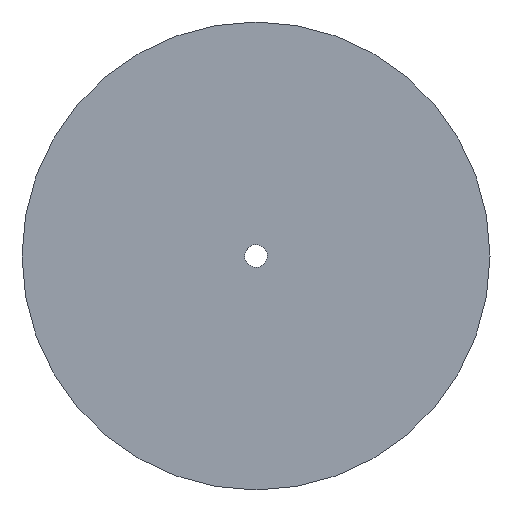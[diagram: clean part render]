
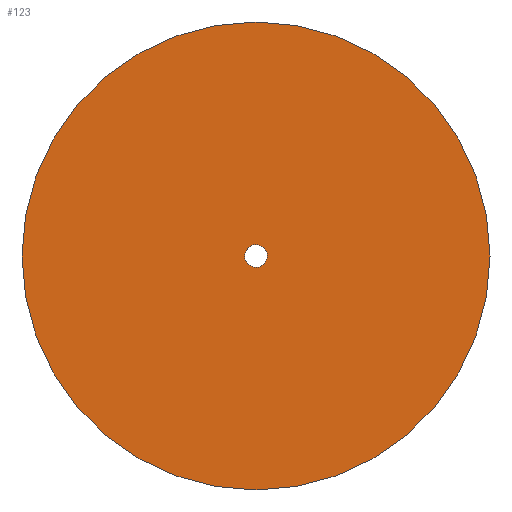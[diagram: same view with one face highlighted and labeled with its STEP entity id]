
A CAD part, top view. The second image highlights one B-rep face of the part: STEP entity #123.
In plain terms, the highlighted planar face has unit normal (0, 0, 1).
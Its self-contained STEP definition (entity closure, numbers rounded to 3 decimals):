
#62=CARTESIAN_POINT('Vertex',(-2.852,1.558,0.)) ;
#76=CARTESIAN_POINT('Vertex',(2.852,-1.558,0.)) ;
#79=CARTESIAN_POINT('Axis2P3D Location',(0.,0.,0.)) ;
#91=CARTESIAN_POINT('Axis2P3D Location',(0.,0.,0.)) ;
#96=CARTESIAN_POINT('Axis2P3D Location',(0.,0.,0.)) ;
#100=CARTESIAN_POINT('Vertex',(67.,0.,0.)) ;
#102=CARTESIAN_POINT('Vertex',(-67.,0.,0.)) ;
#105=CARTESIAN_POINT('Axis2P3D Location',(0.,0.,0.)) ;
#114=CARTESIAN_POINT('Axis2P3D Location',(0.,0.,0.)) ;
#80=DIRECTION('Axis2P3D Direction',(0.,-0.,-1.)) ;
#92=DIRECTION('Axis2P3D Direction',(0.,0.,1.)) ;
#93=DIRECTION('Axis2P3D XDirection',(1.,0.,0.)) ;
#97=DIRECTION('Axis2P3D Direction',(0.,0.,1.)) ;
#106=DIRECTION('Axis2P3D Direction',(0.,0.,1.)) ;
#115=DIRECTION('Axis2P3D Direction',(0.,0.,1.)) ;
#81=AXIS2_PLACEMENT_3D('Circle Axis2P3D',#79,#80,$) ;
#94=AXIS2_PLACEMENT_3D('Plane Axis2P3D',#91,#92,#93) ;
#98=AXIS2_PLACEMENT_3D('Circle Axis2P3D',#96,#97,$) ;
#107=AXIS2_PLACEMENT_3D('Circle Axis2P3D',#105,#106,$) ;
#116=AXIS2_PLACEMENT_3D('Circle Axis2P3D',#114,#115,$) ;
#111=ORIENTED_EDGE('',*,*,#104,.F.) ;
#112=ORIENTED_EDGE('',*,*,#109,.F.) ;
#120=ORIENTED_EDGE('',*,*,#118,.F.) ;
#121=ORIENTED_EDGE('',*,*,#83,.F.) ;
#122=FACE_BOUND('',#119,.T.) ;
#123=ADVANCED_FACE('PartBody',(#113,#122),#95,.T.) ;
#82=CIRCLE('generated circle',#81,3.25) ;
#99=CIRCLE('generated circle',#98,67.) ;
#108=CIRCLE('generated circle',#107,67.) ;
#117=CIRCLE('generated circle',#116,3.25) ;
#83=EDGE_CURVE('',#77,#63,#82,.F.) ;
#104=EDGE_CURVE('',#101,#103,#99,.F.) ;
#109=EDGE_CURVE('',#103,#101,#108,.F.) ;
#118=EDGE_CURVE('',#63,#77,#117,.T.) ;
#110=EDGE_LOOP('',(#111,#112)) ;
#119=EDGE_LOOP('',(#120,#121)) ;
#113=FACE_OUTER_BOUND('',#110,.T.) ;
#95=PLANE('',#94) ;
#63=VERTEX_POINT('',#62) ;
#77=VERTEX_POINT('',#76) ;
#101=VERTEX_POINT('',#100) ;
#103=VERTEX_POINT('',#102) ;
